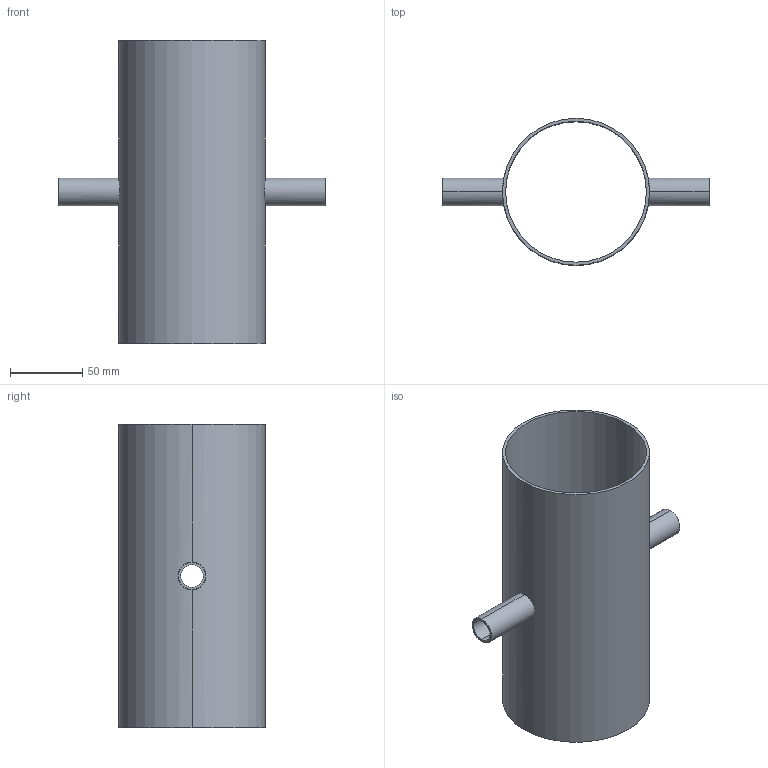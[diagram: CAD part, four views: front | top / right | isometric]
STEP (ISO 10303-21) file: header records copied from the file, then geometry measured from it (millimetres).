
FILE_DESCRIPTION (( 'STEP AP214' ), '1' );
FILE_NAME ('TE9RWWWW6L4.0x.75-...STEP', '2016-05-22T04:41:14', ( 'eran' ), ( '' ), 'SwSTEP 2.0', 'SolidWorks 2016', '' );
FILE_SCHEMA (( 'AUTOMOTIVE_DESIGN' ));
Length unit declared in the file: millimetre
Products named in the file (1): TE9RWWWW6L4.0x.75-..
Bounding box: 184.15 x 101.6 x 209.55 mm (x, y, z)
Volume: 144776.5 mm3; surface area: 140848.3 mm2
Topology: 1 solids, 1 shells, 16 faces, 40 edges, 24 vertices
Faces by surface type: cylinder 12, plane 4
Entity records: 870 total; most frequent: CARTESIAN_POINT 445, DIRECTION 82, ORIENTED_EDGE 80, EDGE_CURVE 40, AXIS2_PLACEMENT_3D 33, VERTEX_POINT 24, EDGE_LOOP 20, LINE 16
